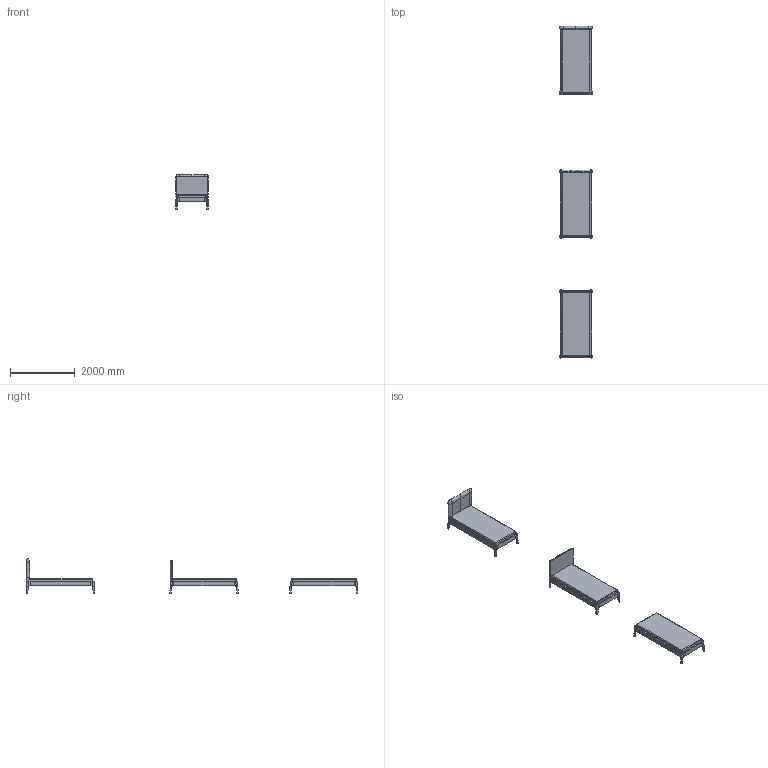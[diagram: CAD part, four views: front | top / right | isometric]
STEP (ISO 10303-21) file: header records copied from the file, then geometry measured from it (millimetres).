
FILE_DESCRIPTION(/* description */ (''),/* implementation_level */ '2;1');
FILE_NAME(/* name */ '90x200',/* time_stamp */ '2025-10-27T19:08:17+01:00',/* author */ (''),/* organization */ (''),/* preprocessor_version */ 'ST-DEVELOPER v16.5',/* originating_system */ 'Rhino 7.38',/* authorisation */ '');
FILE_SCHEMA (('CONFIG_CONTROL_DESIGN'));
Length unit declared in the file: millimetre
Products named in the file (1): Document
Bounding box: 1005.09 x 10247.15 x 1061.3 mm (x, y, z)
Volume: 1286313090.3 mm3; surface area: 24549176.9 mm2
Topology: 29 solids, 32 shells, 537 faces, 1210 edges, 728 vertices
Faces by surface type: plane 278, bspline 186, cylinder 73
Entity records: 54059 total; most frequent: CARTESIAN_POINT 45710, ORIENTED_EDGE 2390, EDGE_CURVE 1198, B_SPLINE_CURVE_WITH_KNOTS 1040, VERTEX_POINT 728, EDGE_LOOP 543, ADVANCED_FACE 537, FACE_OUTER_BOUND 537
